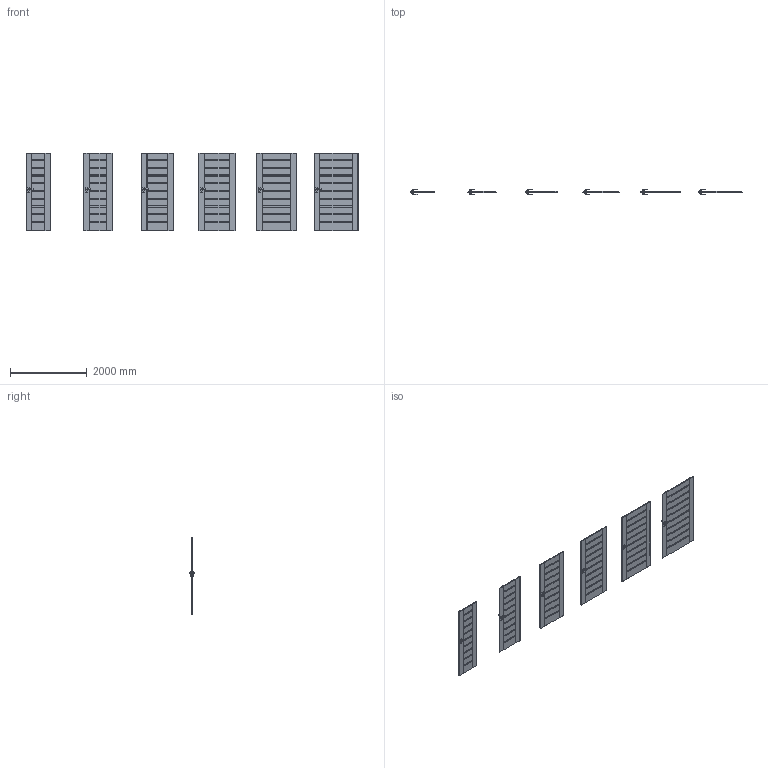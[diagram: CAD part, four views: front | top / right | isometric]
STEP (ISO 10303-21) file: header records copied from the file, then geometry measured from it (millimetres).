
FILE_DESCRIPTION(/* description */ (''),/* implementation_level */ '2;1');
FILE_NAME(/* name */ '049774_A_2-Skrzydło Koncept model A_ polska norma _PN__ przylgowe..stp',/* time_stamp */ '2024-03-13T13:26:49+01:00',/* author */ (''),/* organization */ (''),/* preprocessor_version */ 'ST-DEVELOPER v16',/* originating_system */ 'SIEMENS PLM Software NX 11.0',/* authorisation */ '');
FILE_SCHEMA (('AUTOMOTIVE_DESIGN { 1 0 10303 214 3 1 1 1 }'));
Products named in the file (1): bkni33389E1Da6w9
Bounding box: 8644 x 153.27 x 2030.02 mm (x, y, z)
Volume: 362772385.1 mm3; surface area: 25270966.1 mm2
Topology: 30 solids, 30 shells, 2562 faces, 6930 edges, 4308 vertices
Faces by surface type: plane 1116, cylinder 1080, bspline 198, sphere 168
Entity records: 87879 total; most frequent: CARTESIAN_POINT 25213, ORIENTED_EDGE 13524, DIRECTION 12542, EDGE_CURVE 6762, VERTEX_POINT 4308, AXIS2_PLACEMENT_3D 4297, LINE 3948, VECTOR 3948
